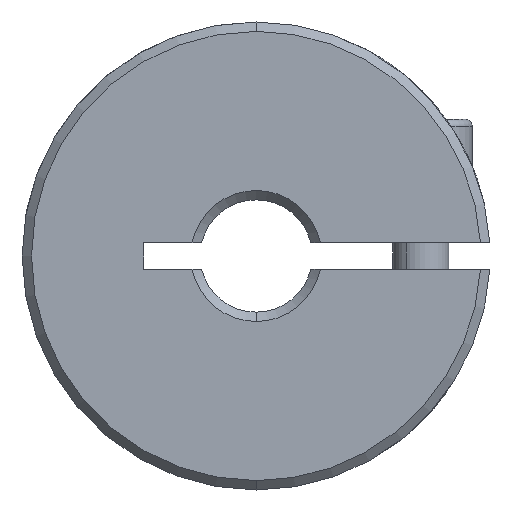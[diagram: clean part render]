
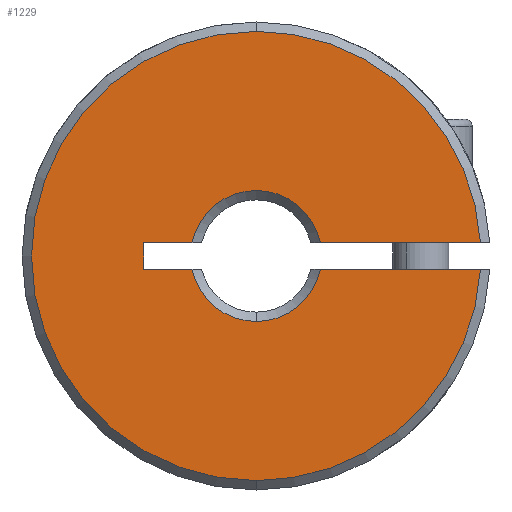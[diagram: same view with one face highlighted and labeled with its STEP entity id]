
A CAD part, front view. The second image highlights one B-rep face of the part: STEP entity #1229.
In plain terms, the highlighted planar face has unit normal (0, -1, 0).
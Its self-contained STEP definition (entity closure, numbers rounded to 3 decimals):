
#30 = VERTEX_POINT ( 'NONE', #2340 ) ;
#101 = EDGE_CURVE ( 'NONE', #30, #4253, #300, .T. ) ;
#162 = CARTESIAN_POINT ( 'NONE',  ( -6., 0.25, 0.7 ) ) ;
#175 = VECTOR ( 'NONE', #617, 1000. ) ;
#282 = DIRECTION ( 'NONE',  ( 0., 0., 1. ) ) ;
#300 = CIRCLE ( 'NONE', #1504, 3.5 ) ;
#364 = VERTEX_POINT ( 'NONE', #3666 ) ;
#365 = LINE ( 'NONE', #5193, #1062 ) ;
#398 = DIRECTION ( 'NONE',  ( 0., -1., 0. ) ) ;
#457 = EDGE_LOOP ( 'NONE', ( #1662, #2995, #1444, #2060, #2451, #2180, #2581, #2430, #3344, #3175, #1654 ) ) ;
#617 = DIRECTION ( 'NONE',  ( -1., 0., 0. ) ) ;
#685 = DIRECTION ( 'NONE',  ( 0., -1., 0. ) ) ;
#715 = CARTESIAN_POINT ( 'NONE',  ( 3.429, 0.25, 0.7 ) ) ;
#822 = DIRECTION ( 'NONE',  ( 0., 0., -1. ) ) ;
#982 = CIRCLE ( 'NONE', #1633, 12. ) ;
#1062 = VECTOR ( 'NONE', #822, 1000. ) ;
#1132 = DIRECTION ( 'NONE',  ( 1., 0., 0. ) ) ;
#1142 = CARTESIAN_POINT ( 'NONE',  ( 0., 0.25, 12. ) ) ;
#1169 = CARTESIAN_POINT ( 'NONE',  ( -6., 0.25, 0.7 ) ) ;
#1229 = ADVANCED_FACE ( 'NONE', ( #5403 ), #2274, .F. ) ;
#1359 = VECTOR ( 'NONE', #1559, 1000. ) ;
#1433 = CARTESIAN_POINT ( 'NONE',  ( -3.429, 0.25, -0.7 ) ) ;
#1444 = ORIENTED_EDGE ( 'NONE', *, *, #4706, .F. ) ;
#1446 = VECTOR ( 'NONE', #2879, 1000. ) ;
#1464 = CIRCLE ( 'NONE', #4659, 3.5 ) ;
#1472 = DIRECTION ( 'NONE',  ( 0., 1., 0. ) ) ;
#1504 = AXIS2_PLACEMENT_3D ( 'NONE', #3274, #3302, #1985 ) ;
#1530 = EDGE_CURVE ( 'NONE', #2182, #2649, #3630, .T. ) ;
#1559 = DIRECTION ( 'NONE',  ( -1., 0., 0. ) ) ;
#1582 = CARTESIAN_POINT ( 'NONE',  ( -6., 0.25, -0.7 ) ) ;
#1591 = VERTEX_POINT ( 'NONE', #1433 ) ;
#1627 = AXIS2_PLACEMENT_3D ( 'NONE', #4111, #4996, #3682 ) ;
#1633 = AXIS2_PLACEMENT_3D ( 'NONE', #3850, #685, #282 ) ;
#1654 = ORIENTED_EDGE ( 'NONE', *, *, #2860, .F. ) ;
#1662 = ORIENTED_EDGE ( 'NONE', *, *, #3450, .F. ) ;
#1731 = EDGE_CURVE ( 'NONE', #4668, #1591, #4086, .T. ) ;
#1750 = CARTESIAN_POINT ( 'NONE',  ( 0., 0.25, -3.5 ) ) ;
#1923 = VERTEX_POINT ( 'NONE', #4574 ) ;
#1954 = DIRECTION ( 'NONE',  ( 0., 0., 1. ) ) ;
#1985 = DIRECTION ( 'NONE',  ( 0., 0., 1. ) ) ;
#2060 = ORIENTED_EDGE ( 'NONE', *, *, #4220, .T. ) ;
#2180 = ORIENTED_EDGE ( 'NONE', *, *, #1530, .T. ) ;
#2182 = VERTEX_POINT ( 'NONE', #4003 ) ;
#2248 = AXIS2_PLACEMENT_3D ( 'NONE', #4330, #398, #3478 ) ;
#2274 = PLANE ( 'NONE',  #4075 ) ;
#2340 = CARTESIAN_POINT ( 'NONE',  ( -3.429, 0.25, 0.7 ) ) ;
#2362 = CARTESIAN_POINT ( 'NONE',  ( 3.429, 0.25, -0.7 ) ) ;
#2430 = ORIENTED_EDGE ( 'NONE', *, *, #5005, .T. ) ;
#2451 = ORIENTED_EDGE ( 'NONE', *, *, #3277, .T. ) ;
#2499 = CARTESIAN_POINT ( 'NONE',  ( 0., 0.25, 0. ) ) ;
#2581 = ORIENTED_EDGE ( 'NONE', *, *, #3465, .F. ) ;
#2649 = VERTEX_POINT ( 'NONE', #4070 ) ;
#2843 = CARTESIAN_POINT ( 'NONE',  ( 0., 0.25, 0. ) ) ;
#2860 = EDGE_CURVE ( 'NONE', #364, #3297, #365, .T. ) ;
#2879 = DIRECTION ( 'NONE',  ( 1., 0., 0. ) ) ;
#2995 = ORIENTED_EDGE ( 'NONE', *, *, #101, .T. ) ;
#3175 = ORIENTED_EDGE ( 'NONE', *, *, #4167, .F. ) ;
#3274 = CARTESIAN_POINT ( 'NONE',  ( 0., 0.25, 0. ) ) ;
#3277 = EDGE_CURVE ( 'NONE', #3719, #2182, #5304, .T. ) ;
#3291 = VECTOR ( 'NONE', #1132, 1000. ) ;
#3297 = VERTEX_POINT ( 'NONE', #4166 ) ;
#3302 = DIRECTION ( 'NONE',  ( 0., 1., 0. ) ) ;
#3344 = ORIENTED_EDGE ( 'NONE', *, *, #1731, .T. ) ;
#3450 = EDGE_CURVE ( 'NONE', #30, #364, #4700, .T. ) ;
#3465 = EDGE_CURVE ( 'NONE', #5353, #2649, #4249, .T. ) ;
#3478 = DIRECTION ( 'NONE',  ( 0., 0., 1. ) ) ;
#3630 = CIRCLE ( 'NONE', #2248, 12. ) ;
#3666 = CARTESIAN_POINT ( 'NONE',  ( -6., 0.25, 0.7 ) ) ;
#3682 = DIRECTION ( 'NONE',  ( 0., 0., 1. ) ) ;
#3719 = VERTEX_POINT ( 'NONE', #1142 ) ;
#3720 = AXIS2_PLACEMENT_3D ( 'NONE', #2843, #5182, #1954 ) ;
#3850 = CARTESIAN_POINT ( 'NONE',  ( 0., 0.25, 0. ) ) ;
#4003 = CARTESIAN_POINT ( 'NONE',  ( 0., 0.25, -12. ) ) ;
#4070 = CARTESIAN_POINT ( 'NONE',  ( 11.98, 0.25, -0.7 ) ) ;
#4075 = AXIS2_PLACEMENT_3D ( 'NONE', #4907, #1472, #5326 ) ;
#4086 = CIRCLE ( 'NONE', #3720, 3.5 ) ;
#4111 = CARTESIAN_POINT ( 'NONE',  ( 0., 0.25, 0. ) ) ;
#4166 = CARTESIAN_POINT ( 'NONE',  ( -6., 0.25, -0.7 ) ) ;
#4167 = EDGE_CURVE ( 'NONE', #3297, #1591, #5051, .T. ) ;
#4220 = EDGE_CURVE ( 'NONE', #1923, #3719, #982, .T. ) ;
#4249 = LINE ( 'NONE', #5547, #1446 ) ;
#4253 = VERTEX_POINT ( 'NONE', #715 ) ;
#4330 = CARTESIAN_POINT ( 'NONE',  ( 0., 0.25, 0. ) ) ;
#4574 = CARTESIAN_POINT ( 'NONE',  ( 11.98, 0.25, 0.7 ) ) ;
#4659 = AXIS2_PLACEMENT_3D ( 'NONE', #2499, #5216, #5185 ) ;
#4668 = VERTEX_POINT ( 'NONE', #1750 ) ;
#4700 = LINE ( 'NONE', #1169, #1359 ) ;
#4706 = EDGE_CURVE ( 'NONE', #1923, #4253, #5363, .T. ) ;
#4907 = CARTESIAN_POINT ( 'NONE',  ( -50., 0.25, 17.349 ) ) ;
#4996 = DIRECTION ( 'NONE',  ( 0., -1., 0. ) ) ;
#5005 = EDGE_CURVE ( 'NONE', #5353, #4668, #1464, .T. ) ;
#5051 = LINE ( 'NONE', #1582, #3291 ) ;
#5182 = DIRECTION ( 'NONE',  ( 0., 1., 0. ) ) ;
#5185 = DIRECTION ( 'NONE',  ( 0., 0., 1. ) ) ;
#5193 = CARTESIAN_POINT ( 'NONE',  ( -6., 0.25, -0.7 ) ) ;
#5216 = DIRECTION ( 'NONE',  ( 0., 1., 0. ) ) ;
#5304 = CIRCLE ( 'NONE', #1627, 12. ) ;
#5326 = DIRECTION ( 'NONE',  ( 0., 0., 1. ) ) ;
#5353 = VERTEX_POINT ( 'NONE', #2362 ) ;
#5363 = LINE ( 'NONE', #162, #175 ) ;
#5403 = FACE_OUTER_BOUND ( 'NONE', #457, .T. ) ;
#5547 = CARTESIAN_POINT ( 'NONE',  ( -6., 0.25, -0.7 ) ) ;
